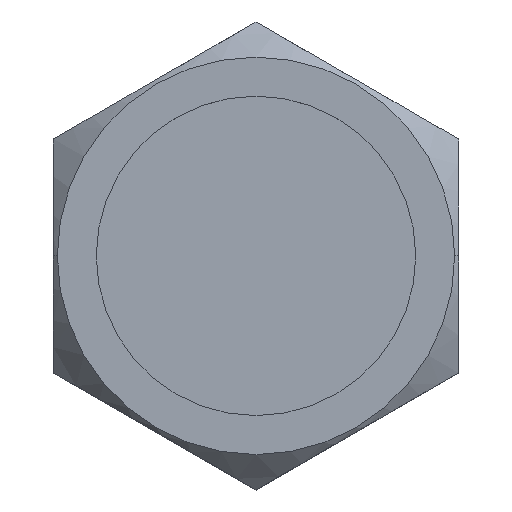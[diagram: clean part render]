
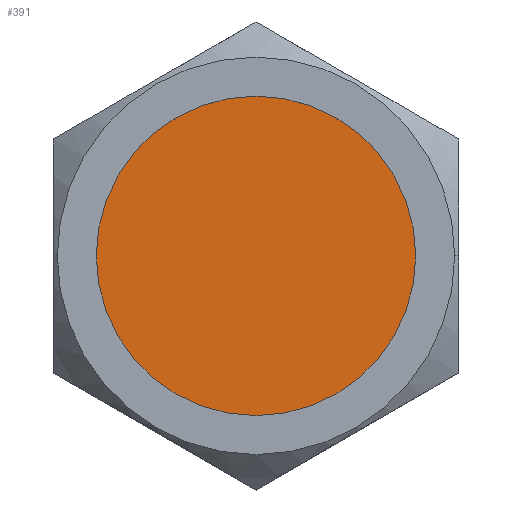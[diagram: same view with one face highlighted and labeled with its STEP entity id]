
A CAD part, top view. The second image highlights one B-rep face of the part: STEP entity #391.
In plain terms, the highlighted planar face has unit normal (0, 0, 1).
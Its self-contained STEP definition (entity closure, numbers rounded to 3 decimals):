
#8 = AXIS2_PLACEMENT_3D ( 'NONE', #494, #834, #479 ) ;
#15 = CARTESIAN_POINT ( 'NONE',  ( -10.25, 0., 7.6 ) ) ;
#26 = ORIENTED_EDGE ( 'NONE', *, *, #581, .T. ) ;
#173 = VERTEX_POINT ( 'NONE', #15 ) ;
#274 = FACE_OUTER_BOUND ( 'NONE', #468, .T. ) ;
#318 = DIRECTION ( 'NONE',  ( 0., 0., 1. ) ) ;
#391 = ADVANCED_FACE ( 'NONE', ( #274 ), #415, .T. ) ;
#394 = AXIS2_PLACEMENT_3D ( 'NONE', #407, #621, #758 ) ;
#407 = CARTESIAN_POINT ( 'NONE',  ( 0., 0., 7.6 ) ) ;
#415 = PLANE ( 'NONE',  #394 ) ;
#422 = CIRCLE ( 'NONE', #603, 10.25 ) ;
#435 = VERTEX_POINT ( 'NONE', #833 ) ;
#468 = EDGE_LOOP ( 'NONE', ( #26, #827 ) ) ;
#479 = DIRECTION ( 'NONE',  ( 1., 0., 0. ) ) ;
#494 = CARTESIAN_POINT ( 'NONE',  ( 0., 0., 7.6 ) ) ;
#553 = CIRCLE ( 'NONE', #8, 10.25 ) ;
#581 = EDGE_CURVE ( 'NONE', #435, #173, #422, .T. ) ;
#603 = AXIS2_PLACEMENT_3D ( 'NONE', #808, #318, #866 ) ;
#621 = DIRECTION ( 'NONE',  ( 0., 0., 1. ) ) ;
#758 = DIRECTION ( 'NONE',  ( 1., 0., 0. ) ) ;
#808 = CARTESIAN_POINT ( 'NONE',  ( 0., 0., 7.6 ) ) ;
#820 = EDGE_CURVE ( 'NONE', #173, #435, #553, .T. ) ;
#827 = ORIENTED_EDGE ( 'NONE', *, *, #820, .T. ) ;
#833 = CARTESIAN_POINT ( 'NONE',  ( 10.25, 0., 7.6 ) ) ;
#834 = DIRECTION ( 'NONE',  ( 0., 0., 1. ) ) ;
#866 = DIRECTION ( 'NONE',  ( 1., 0., 0. ) ) ;
